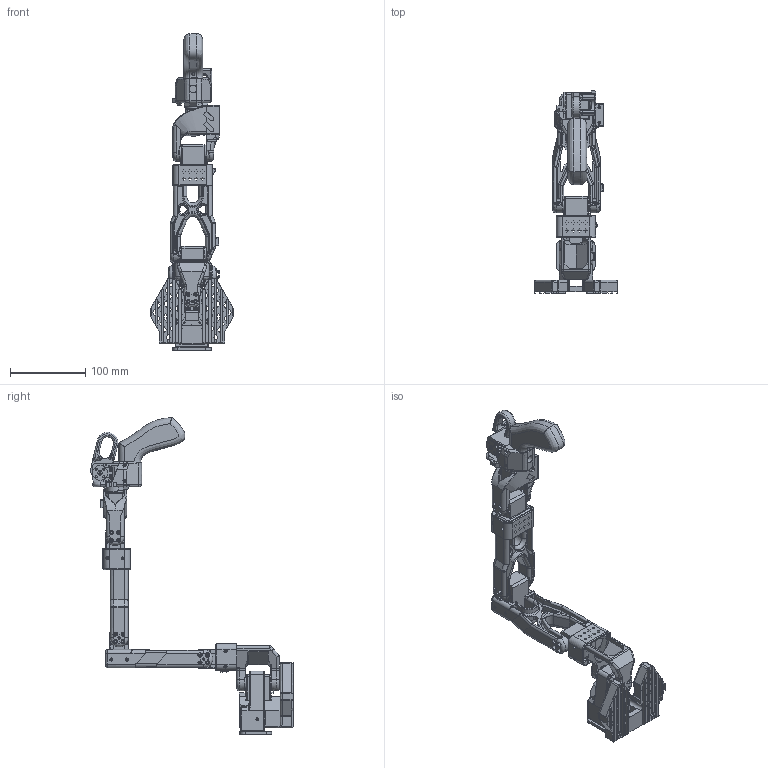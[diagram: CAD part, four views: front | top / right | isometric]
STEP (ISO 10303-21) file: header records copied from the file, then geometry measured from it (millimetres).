
FILE_DESCRIPTION(/* description */ (''),/* implementation_level */ '2;1');
FILE_NAME(/* name */ '',/* time_stamp */ '2025-09-22T20:04:46+08:00',/* author */ (''),/* organization */ (''),/* preprocessor_version */ 'ST-DEVELOPER v20.1',/* originating_system */ 'Autodesk Translation Framework v14.17.0.0',/* authorisation */ '');
FILE_SCHEMA (('AUTOMOTIVE_DESIGN { 1 0 10303 214 3 1 1 }'));
Products named in the file (14): Base_SO101; Rotation_Pitch_SO101; Upper_arm_SO101; Under_arm_SO101; Motor_holder_SO101_Base; Base_motor_holder_SO101; Motor_holder_SO101_Wrist; Wrist_Roll_Pitch_SO101; STS3215_03a; STS3215_03a_1; Wrist_Roll_SO101; Trigger_SO101; Handle_SO101; WaveShare_Mounting_Plate_SO101
Assembly tree (17 placements, depth 2):
  Base_SO101
    STS3215_03a_1  x5
    Rotation_Pitch_SO101
    Upper_arm_SO101
    Under_arm_SO101
    Motor_holder_SO101_Base
    Base_motor_holder_SO101
    Motor_holder_SO101_Wrist
    Wrist_Roll_Pitch_SO101
    STS3215_03a
    Wrist_Roll_SO101
    Trigger_SO101
    Handle_SO101
    WaveShare_Mounting_Plate_SO101
Bounding box: 110.92 x 269.19 x 421.29 mm (x, y, z)
Volume: 688952.6 mm3; surface area: 281540.1 mm2
Topology: 18 solids, 20 shells, 4320 faces, 11517 edges, 7234 vertices
Faces by surface type: plane 2537, cylinder 1189, bspline 268, torus 192, cone 78, sphere 56
Full cylindrical faces by diameter (mm): 1.2 x1, 1.5 x48, 2 x38, 2.2 x1, 2.5 x50, 3.2 x12, 3.5 x12, 4 x3, 4.8 x6, 5.2 x5, 5.4 x8, 6 x11, 9 x6, 10 x1, 16 x1, 20 x11
Entity records: 138092 total; most frequent: CARTESIAN_POINT 46831, ORIENTED_EDGE 19492, DIRECTION 18315, EDGE_CURVE 9746, LINE 6237, VECTOR 6237, VERTEX_POINT 6130, AXIS2_PLACEMENT_3D 6039
